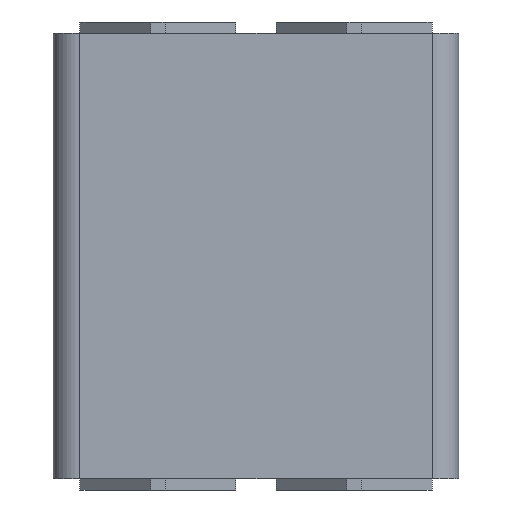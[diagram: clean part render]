
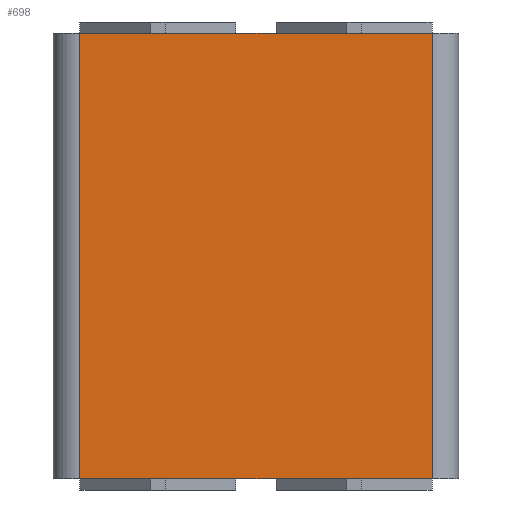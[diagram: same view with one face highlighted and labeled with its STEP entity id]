
A CAD part, front view. The second image highlights one B-rep face of the part: STEP entity #698.
In plain terms, the highlighted planar face has unit normal (0, -1, 0).
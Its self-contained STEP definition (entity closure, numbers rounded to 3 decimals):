
#640=CARTESIAN_POINT('',(39.5,-23.5,100.0));
#641=VERTEX_POINT('',#640);
#649=CARTESIAN_POINT('',(39.5,-23.5,0.0));
#650=VERTEX_POINT('',#649);
#651=CARTESIAN_POINT('',(39.5,-23.5,0.0));
#652=DIRECTION('',(0.0,0.0,1.0));
#653=VECTOR('',#652,100.0);
#654=LINE('',#651,#653);
#655=EDGE_CURVE('',#650,#641,#654,.T.);
#668=CARTESIAN_POINT('',(39.5,-23.5,0.0));
#669=DIRECTION('',(0.0,-1.0,0.0));
#670=DIRECTION('',(0.0,0.0,-1.0));
#671=AXIS2_PLACEMENT_3D('',#668,#669,#670);
#672=PLANE('',#671);
#673=CARTESIAN_POINT('',(-39.5,-23.5,100.0));
#674=VERTEX_POINT('',#673);
#675=CARTESIAN_POINT('',(39.5,-23.5,100.0));
#676=DIRECTION('',(-1.0,0.0,0.0));
#677=VECTOR('',#676,79.);
#678=LINE('',#675,#677);
#679=EDGE_CURVE('',#641,#674,#678,.T.);
#680=ORIENTED_EDGE('',*,*,#679,.T.);
#681=CARTESIAN_POINT('',(-39.5,-23.5,0.0));
#682=VERTEX_POINT('',#681);
#683=CARTESIAN_POINT('',(-39.5,-23.5,0.0));
#684=DIRECTION('',(0.0,0.0,1.0));
#685=VECTOR('',#684,100.0);
#686=LINE('',#683,#685);
#687=EDGE_CURVE('',#682,#674,#686,.T.);
#688=ORIENTED_EDGE('',*,*,#687,.F.);
#689=CARTESIAN_POINT('',(-39.5,-23.5,0.0));
#690=DIRECTION('',(1.0,0.0,0.0));
#691=VECTOR('',#690,79.);
#692=LINE('',#689,#691);
#693=EDGE_CURVE('',#682,#650,#692,.T.);
#694=ORIENTED_EDGE('',*,*,#693,.T.);
#695=ORIENTED_EDGE('',*,*,#655,.T.);
#696=EDGE_LOOP('',(#680,#688,#694,#695));
#697=FACE_OUTER_BOUND('',#696,.T.);
#698=ADVANCED_FACE('',(#697),#672,.T.);
